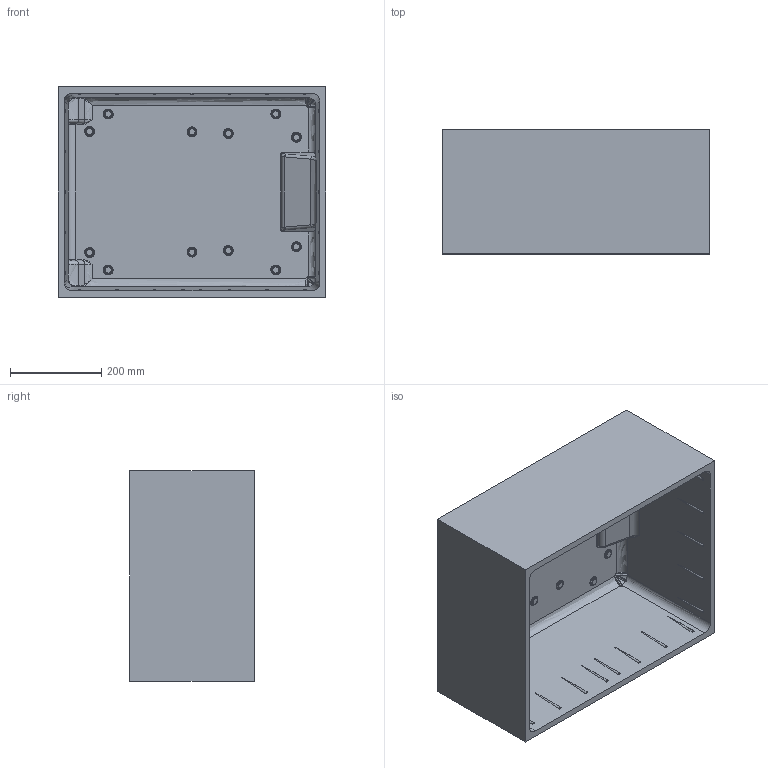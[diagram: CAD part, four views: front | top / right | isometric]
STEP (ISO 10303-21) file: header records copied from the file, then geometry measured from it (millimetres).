
FILE_DESCRIPTION (( 'STEP AP214' ), '1' );
FILE_NAME ('1622-931F Bottom PID 6-04-2026.STEP', '2026-06-05T18:38:43', ( '' ), ( '' ), 'SwSTEP 2.0', 'SolidWorks 2025', '' );
FILE_SCHEMA (( 'AUTOMOTIVE_DESIGN' ));
Length unit declared in the file: inch
Products named in the file (1): 1622-931F Bottom PID 6-04-2026
Bounding box: 587.58 x 272.92 x 463.14 mm (x, y, z)
Volume: 12371701.5 mm3; surface area: 1603084.1 mm2
Topology: 1 solids, 1 shells, 258 faces, 544 edges, 320 vertices
Faces by surface type: bspline 184, plane 74
Entity records: 11156 total; most frequent: CARTESIAN_POINT 7496, ORIENTED_EDGE 1076, EDGE_CURVE 538, VERTEX_POINT 320, DIRECTION 304, EDGE_LOOP 296, ADVANCED_FACE 258, FACE_OUTER_BOUND 258
